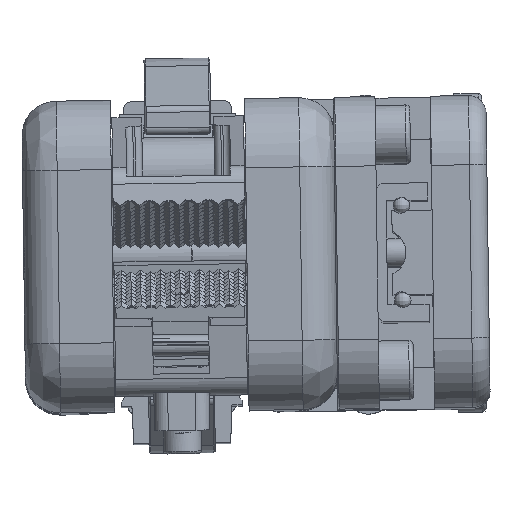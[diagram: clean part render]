
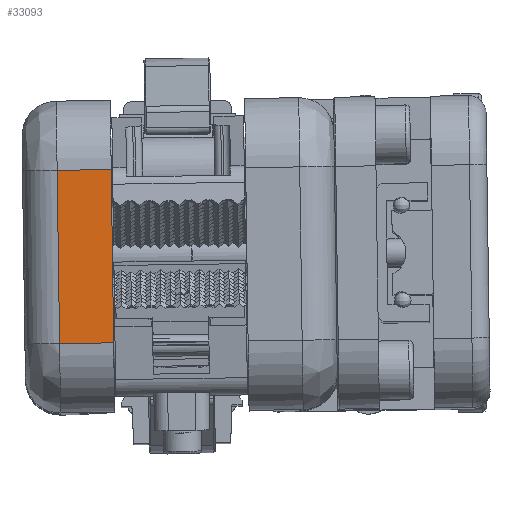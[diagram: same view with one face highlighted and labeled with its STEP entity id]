
A CAD part, top view. The second image highlights one B-rep face of the part: STEP entity #33093.
In plain terms, the highlighted planar face has unit normal (0, 0, 1).
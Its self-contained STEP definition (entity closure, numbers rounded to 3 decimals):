
#3030=LINE('',#87785,#6924);
#3033=LINE('',#87816,#6927);
#3037=LINE('',#87825,#6931);
#3044=LINE('',#87840,#6938);
#6924=VECTOR('',#69185,1.);
#6927=VECTOR('',#69200,1.);
#6931=VECTOR('',#69210,1.);
#6938=VECTOR('',#69225,1.);
#28363=PLANE('',#60600);
#30551=FACE_OUTER_BOUND('',#37605,.T.);
#33093=ADVANCED_FACE('',(#30551),#28363,.F.);
#37605=EDGE_LOOP('',(#45407,#45408,#45409,#45410));
#45407=ORIENTED_EDGE('',*,*,#55461,.T.);
#45408=ORIENTED_EDGE('',*,*,#55448,.T.);
#45409=ORIENTED_EDGE('',*,*,#55470,.T.);
#45410=ORIENTED_EDGE('',*,*,#55456,.T.);
#51172=VERTEX_POINT('',#87760);
#51175=VERTEX_POINT('',#87783);
#51180=VERTEX_POINT('',#87794);
#51182=VERTEX_POINT('',#87814);
#55448=EDGE_CURVE('',#51172,#51175,#3030,.T.);
#55456=EDGE_CURVE('',#51182,#51180,#3033,.T.);
#55461=EDGE_CURVE('',#51180,#51172,#3037,.T.);
#55470=EDGE_CURVE('',#51175,#51182,#3044,.T.);
#60600=AXIS2_PLACEMENT_3D('',#87852,#69239,#69240);
#69185=DIRECTION('',(1.,0.014,0.));
#69200=DIRECTION('',(-1.,-0.014,0.));
#69210=DIRECTION('',(0.014,-1.,0.));
#69225=DIRECTION('',(-0.014,1.,0.));
#69239=DIRECTION('',(0.,0.,-1.));
#69240=DIRECTION('',(0.014,-1.,0.));
#87760=CARTESIAN_POINT('',(-17.322,-12.745,282.));
#87783=CARTESIAN_POINT('',(-9.523,-12.635,282.));
#87785=CARTESIAN_POINT('',(-22.322,-12.815,282.));
#87794=CARTESIAN_POINT('',(-17.674,12.253,282.));
#87814=CARTESIAN_POINT('',(-9.875,12.362,282.));
#87816=CARTESIAN_POINT('',(-22.674,12.182,282.));
#87825=CARTESIAN_POINT('',(-17.182,-22.744,282.));
#87840=CARTESIAN_POINT('',(-10.016,22.361,282.));
#87852=CARTESIAN_POINT('',(-22.814,22.181,282.));
